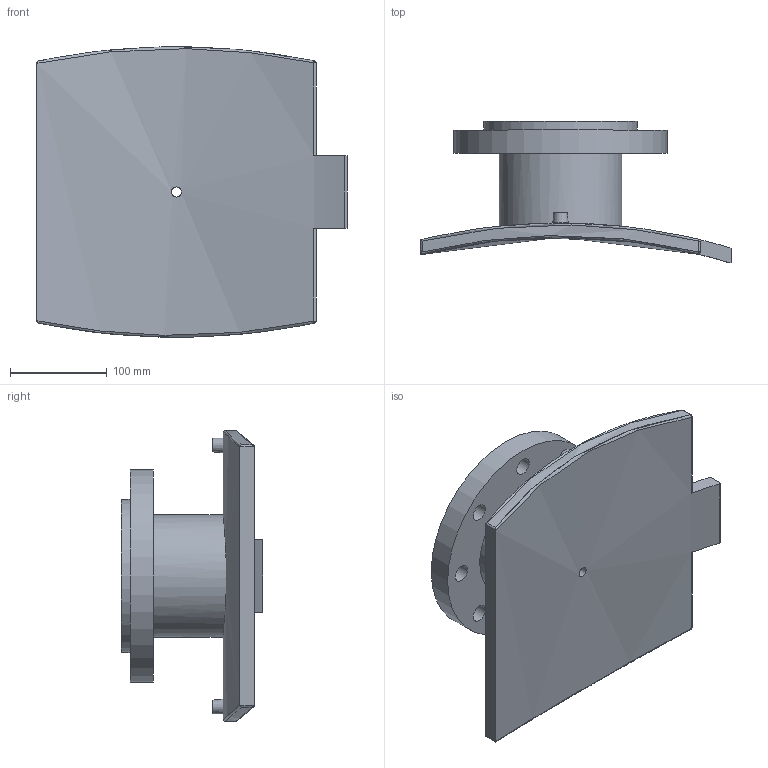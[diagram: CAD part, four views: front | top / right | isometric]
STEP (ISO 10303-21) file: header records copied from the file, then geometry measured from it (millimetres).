
FILE_DESCRIPTION(/* description */ ('PLASSON FLANGED BRANCH SADDLE 1200x100'),/* implementation_level */ '2;1');
FILE_NAME(/* name */ 'C:\Dropbox\KIMPROJECTS-Inventor 2019\99-16-3568-Processing\ElectroFusion Fittings\495904_495903\stp\4959031200100T.stp',/* time_stamp */ '2024-04-03T21:09:25+02:00',/* author */ ('KIM'),/* organization */ (''),/* preprocessor_version */ 'ST-DEVELOPER v17.2',/* originating_system */ 'Autodesk Inventor 2019',/* authorisation */ '');
FILE_SCHEMA (('AUTOMOTIVE_DESIGN { 1 0 10303 214 3 1 1 }'));
Length unit declared in the file: millimetre
Products named in the file (1): 4959031200100T
Bounding box: 320 x 145.72 x 299.81 mm (x, y, z)
Volume: 2419015.6 mm3; surface area: 341257 mm2
Topology: 1 solids, 1 shells, 58 faces, 151 edges, 118 vertices
Faces by surface type: cylinder 31, plane 17, sphere 4, bspline 4, cone 2
Full cylindrical faces by diameter (mm): 4 x2, 10 x2, 10.4 x1, 16 x1, 18 x8, 101 x1, 126.4 x1, 158 x1, 220 x1
Entity records: 2342 total; most frequent: CARTESIAN_POINT 846, DIRECTION 297, ORIENTED_EDGE 274, EDGE_CURVE 137, AXIS2_PLACEMENT_3D 125, VERTEX_POINT 92, EDGE_LOOP 87, CIRCLE 70
